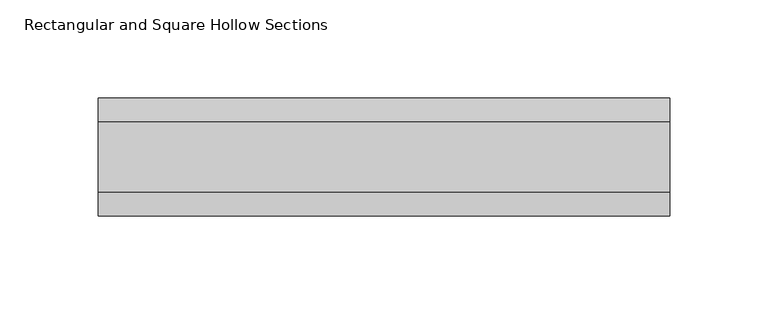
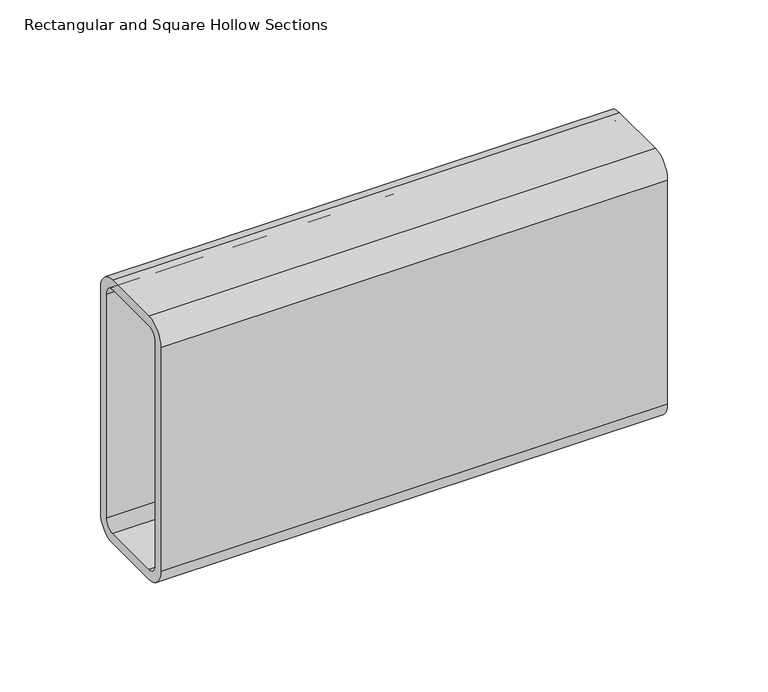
"""IFC4 building model written with IfcOpenShell, lengths in millimetres: beam geometry, Rectangular and Square Hollow Sections : TREC160x60x6."""

from ifc_helpers import new_model, si_unit, point, frame, frame_2d, origin, place, context, project, spatial, polyline, circle_curve, trimmed, segment, composite_curve, outline, extrude, source, transform, mapped, element, save


def rectangular_and_square_hollow_sections_f70fa264(model_context):
    return source(origin(), model_context, "Body", "SweptSolid", [
        extrude(outline(composite_curve([segment(polyline([(30.0, 68.0), (30.0, -68.0)]), True, "CONTINUOUS"), segment(trimmed(circle_curve(frame_2d((18.0, -68.0)), 12.0), [point((30.0, -68.0))], [point((18.0, -80.0))], False, "CARTESIAN"), True, "CONTINUOUS"), segment(polyline([(18.0, -80.0), (-18.0, -80.0)]), True, "CONTINUOUS"), segment(trimmed(circle_curve(frame_2d((-18.0, -68.0)), 12.0), [point((-18.0, -80.0))], [point((-30.0, -68.0))], False, "CARTESIAN"), True, "CONTINUOUS"), segment(polyline([(-30.0, -68.0), (-30.0, 68.0)]), True, "CONTINUOUS"), segment(trimmed(circle_curve(frame_2d((-18.0, 68.0)), 12.0), [point((-30.0, 68.0))], [point((-18.0, 80.0))], False, "CARTESIAN"), True, "CONTINUOUS"), segment(polyline([(-18.0, 80.0), (18.0, 80.0)]), True, "CONTINUOUS"), segment(trimmed(circle_curve(frame_2d((18.0, 68.0)), 12.0), [point((18.0, 80.0))], [point((30.0, 68.0))], False, "CARTESIAN"), True, "CONTINUOUS")], self_intersect=False), holes=[composite_curve([segment(trimmed(circle_curve(frame_2d((-18.0, 68.0)), 6.0), [point((-18.0, 74.0))], [point((-24.0, 68.0))], True, "CARTESIAN"), True, "CONTINUOUS"), segment(polyline([(-24.0, 68.0), (-24.0, -68.0)]), True, "CONTINUOUS"), segment(trimmed(circle_curve(frame_2d((-18.0, -68.0)), 6.0), [point((-24.0, -68.0))], [point((-18.0, -74.0))], True, "CARTESIAN"), True, "CONTINUOUS"), segment(polyline([(-18.0, -74.0), (18.0, -74.0)]), True, "CONTINUOUS"), segment(trimmed(circle_curve(frame_2d((18.0, -68.0)), 6.0), [point((18.0, -74.0))], [point((24.0, -68.0))], True, "CARTESIAN"), True, "CONTINUOUS"), segment(polyline([(24.0, -68.0), (24.0, 68.0)]), True, "CONTINUOUS"), segment(trimmed(circle_curve(frame_2d((18.0, 68.0)), 6.0), [point((24.0, 68.0))], [point((18.0, 74.0))], True, "CARTESIAN"), True, "CONTINUOUS"), segment(polyline([(18.0, 74.0), (-18.0, 74.0)]), True, "CONTINUOUS")], self_intersect=False)]), frame((-145.5, 0.0, 0.0), z_axis=(1.0, 0.0, 0.0), x_axis=(0.0, 1.0, 0.0)), (0.0, 0.0, 1.0), 291.0),
    ])


if __name__ == "__main__":
    model = new_model("IFC4")
    model_context = context("Model", 3, world=origin())
    ifc_project = project(units=[si_unit("LENGTHUNIT", "METRE", prefix="MILLI")], contexts=[model_context])
    site = spatial("IfcSite", under=ifc_project)
    building = spatial("IfcBuilding", under=site)
    placement = place(None, origin())
    rectangular_and_square_hollow_sections_shape = rectangular_and_square_hollow_sections_f70fa264(model_context)
    element("IfcBeam", 1, ObjectType="Rectangular and Square Hollow Sections : TREC160x60x6", at=placement, inside=building, context=model_context, shape_type="MappedRepresentation", body=[
        mapped(rectangular_and_square_hollow_sections_shape, transform((0.0, 0.0, 0.0), x_axis=(1.0, 0.0, 0.0), y_axis=(0.0, 1.0, 0.0), z_axis=(0.0, 0.0, 1.0))),
    ])
    save(model, "model.ifc")
